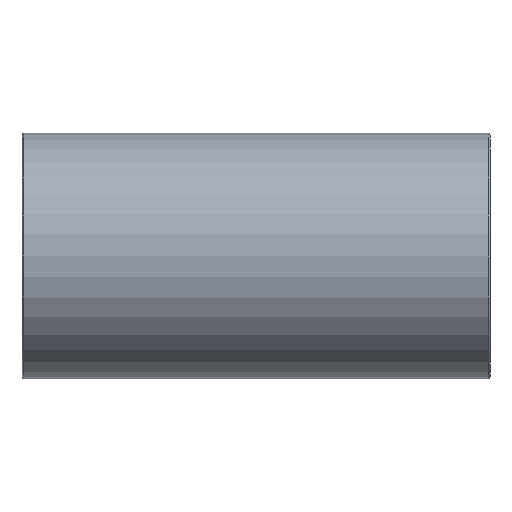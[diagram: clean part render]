
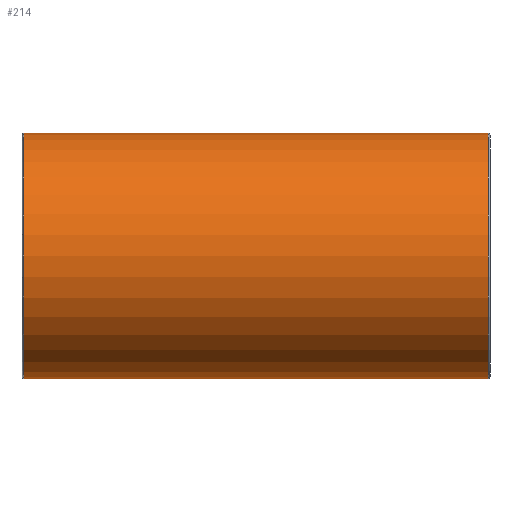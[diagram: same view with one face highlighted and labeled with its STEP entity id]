
A CAD part, front view. The second image highlights one B-rep face of the part: STEP entity #214.
In plain terms, the highlighted cylindrical face has radius 31 mm (diameter 62 mm), a full revolution.
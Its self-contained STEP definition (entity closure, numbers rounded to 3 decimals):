
#27=B_SPLINE_CURVE_WITH_KNOTS('',3,(#355,#356,#357,#358,#359,#360,#361,
#362,#363,#364,#365,#366,#367,#368,#369,#370,#371,#372,#373,#374,#375,#376,
#377,#378,#379,#380,#381,#382,#383,#384,#385,#386,#387,#388,#389,#390,#391,
#392,#393,#394,#395,#396,#397,#398,#399,#400,#401,#402,#403,#404,#405,#406,
#407,#408,#409,#410,#411,#412,#413,#414,#415,#416,#417,#418,#419,#420),
 .UNSPECIFIED.,.T.,.F.,(4,2,2,2,2,2,2,2,2,2,2,2,2,2,2,2,2,2,2,2,2,2,2,2,
2,2,2,2,2,2,2,2,4),(0.,0.36,0.721,1.081,
1.442,1.8,2.158,2.516,2.875,
3.233,3.591,3.949,4.307,4.668,
5.028,5.389,5.749,6.109,6.47,
6.83,7.191,7.549,7.907,8.265,
8.624,8.982,9.34,9.698,10.056,
10.417,10.777,11.138,11.498),
 .UNSPECIFIED.);
#29=FACE_BOUND('',#70,.T.);
#30=FACE_BOUND('',#71,.T.);
#50=FACE_OUTER_BOUND('',#69,.T.);
#69=EDGE_LOOP('',(#167));
#70=EDGE_LOOP('',(#168));
#71=EDGE_LOOP('',(#169));
#109=CIRCLE('',#236,31.);
#110=CIRCLE('',#237,31.);
#127=VERTEX_POINT('',#350);
#128=VERTEX_POINT('',#352);
#129=VERTEX_POINT('',#354);
#147=EDGE_CURVE('',#127,#127,#109,.T.);
#148=EDGE_CURVE('',#128,#128,#110,.T.);
#149=EDGE_CURVE('',#129,#129,#27,.T.);
#167=ORIENTED_EDGE('',*,*,#147,.F.);
#168=ORIENTED_EDGE('',*,*,#148,.F.);
#169=ORIENTED_EDGE('',*,*,#149,.F.);
#207=CYLINDRICAL_SURFACE('',#235,31.);
#214=ADVANCED_FACE('',(#50,#29,#30),#207,.T.);
#235=AXIS2_PLACEMENT_3D('',#349,#274,#275);
#236=AXIS2_PLACEMENT_3D('',#351,#276,#277);
#237=AXIS2_PLACEMENT_3D('',#353,#278,#279);
#274=DIRECTION('center_axis',(1.,0.,0.));
#275=DIRECTION('ref_axis',(0.,1.,0.));
#276=DIRECTION('center_axis',(-1.,0.,0.));
#277=DIRECTION('ref_axis',(0.,-1.,0.));
#278=DIRECTION('center_axis',(1.,0.,0.));
#279=DIRECTION('ref_axis',(0.,-1.,0.));
#349=CARTESIAN_POINT('Origin',(0.,0.,
0.));
#350=CARTESIAN_POINT('',(-58.5,31.,0.));
#351=CARTESIAN_POINT('Origin',(-58.5,0.,0.));
#352=CARTESIAN_POINT('',(58.5,31.,0.));
#353=CARTESIAN_POINT('Origin',(58.5,0.,0.));
#354=CARTESIAN_POINT('',(0.,24.875,18.5));
#355=CARTESIAN_POINT('Ctrl Pts',(0.,24.875,
18.5));
#356=CARTESIAN_POINT('Ctrl Pts',(1.201,24.875,18.5));
#357=CARTESIAN_POINT('Ctrl Pts',(2.429,24.964,18.381));
#358=CARTESIAN_POINT('Ctrl Pts',(4.845,25.314,17.897));
#359=CARTESIAN_POINT('Ctrl Pts',(6.034,25.573,17.531));
#360=CARTESIAN_POINT('Ctrl Pts',(8.298,26.2,16.58));
#361=CARTESIAN_POINT('Ctrl Pts',(9.376,26.567,15.993));
#362=CARTESIAN_POINT('Ctrl Pts',(11.364,27.332,14.648));
#363=CARTESIAN_POINT('Ctrl Pts',(12.274,27.729,13.888));
#364=CARTESIAN_POINT('Ctrl Pts',(13.883,28.478,12.28));
#365=CARTESIAN_POINT('Ctrl Pts',(14.642,28.858,11.371));
#366=CARTESIAN_POINT('Ctrl Pts',(15.989,29.565,9.383));
#367=CARTESIAN_POINT('Ctrl Pts',(16.578,29.89,8.302));
#368=CARTESIAN_POINT('Ctrl Pts',(17.533,30.43,6.03));
#369=CARTESIAN_POINT('Ctrl Pts',(17.899,30.644,4.837));
#370=CARTESIAN_POINT('Ctrl Pts',(18.383,30.929,2.419));
#371=CARTESIAN_POINT('Ctrl Pts',(18.5,31.,1.194));
#372=CARTESIAN_POINT('Ctrl Pts',(18.5,31.,-1.194));
#373=CARTESIAN_POINT('Ctrl Pts',(18.383,30.929,-2.419));
#374=CARTESIAN_POINT('Ctrl Pts',(17.899,30.644,-4.837));
#375=CARTESIAN_POINT('Ctrl Pts',(17.533,30.43,-6.03));
#376=CARTESIAN_POINT('Ctrl Pts',(16.578,29.89,-8.302));
#377=CARTESIAN_POINT('Ctrl Pts',(15.989,29.565,-9.383));
#378=CARTESIAN_POINT('Ctrl Pts',(14.642,28.858,-11.371));
#379=CARTESIAN_POINT('Ctrl Pts',(13.883,28.478,-12.28));
#380=CARTESIAN_POINT('Ctrl Pts',(12.274,27.729,-13.888));
#381=CARTESIAN_POINT('Ctrl Pts',(11.364,27.332,-14.648));
#382=CARTESIAN_POINT('Ctrl Pts',(9.376,26.567,-15.993));
#383=CARTESIAN_POINT('Ctrl Pts',(8.298,26.2,-16.58));
#384=CARTESIAN_POINT('Ctrl Pts',(6.034,25.573,-17.531));
#385=CARTESIAN_POINT('Ctrl Pts',(4.845,25.314,-17.897));
#386=CARTESIAN_POINT('Ctrl Pts',(2.429,24.964,-18.381));
#387=CARTESIAN_POINT('Ctrl Pts',(1.201,24.875,-18.5));
#388=CARTESIAN_POINT('Ctrl Pts',(-1.201,24.875,-18.5));
#389=CARTESIAN_POINT('Ctrl Pts',(-2.429,24.964,-18.381));
#390=CARTESIAN_POINT('Ctrl Pts',(-4.845,25.314,-17.897));
#391=CARTESIAN_POINT('Ctrl Pts',(-6.034,25.573,-17.531));
#392=CARTESIAN_POINT('Ctrl Pts',(-8.298,26.2,-16.58));
#393=CARTESIAN_POINT('Ctrl Pts',(-9.376,26.567,-15.993));
#394=CARTESIAN_POINT('Ctrl Pts',(-11.364,27.332,-14.648));
#395=CARTESIAN_POINT('Ctrl Pts',(-12.274,27.729,-13.888));
#396=CARTESIAN_POINT('Ctrl Pts',(-13.883,28.478,-12.28));
#397=CARTESIAN_POINT('Ctrl Pts',(-14.642,28.858,-11.371));
#398=CARTESIAN_POINT('Ctrl Pts',(-15.989,29.565,-9.383));
#399=CARTESIAN_POINT('Ctrl Pts',(-16.578,29.89,-8.302));
#400=CARTESIAN_POINT('Ctrl Pts',(-17.533,30.43,-6.03));
#401=CARTESIAN_POINT('Ctrl Pts',(-17.899,30.644,-4.837));
#402=CARTESIAN_POINT('Ctrl Pts',(-18.383,30.929,-2.419));
#403=CARTESIAN_POINT('Ctrl Pts',(-18.5,31.,-1.194));
#404=CARTESIAN_POINT('Ctrl Pts',(-18.5,31.,1.194));
#405=CARTESIAN_POINT('Ctrl Pts',(-18.383,30.929,2.419));
#406=CARTESIAN_POINT('Ctrl Pts',(-17.899,30.644,4.837));
#407=CARTESIAN_POINT('Ctrl Pts',(-17.533,30.43,6.03));
#408=CARTESIAN_POINT('Ctrl Pts',(-16.578,29.89,8.302));
#409=CARTESIAN_POINT('Ctrl Pts',(-15.989,29.565,9.383));
#410=CARTESIAN_POINT('Ctrl Pts',(-14.642,28.858,11.371));
#411=CARTESIAN_POINT('Ctrl Pts',(-13.883,28.478,12.28));
#412=CARTESIAN_POINT('Ctrl Pts',(-12.274,27.729,13.888));
#413=CARTESIAN_POINT('Ctrl Pts',(-11.364,27.332,14.648));
#414=CARTESIAN_POINT('Ctrl Pts',(-9.376,26.567,15.993));
#415=CARTESIAN_POINT('Ctrl Pts',(-8.298,26.2,16.58));
#416=CARTESIAN_POINT('Ctrl Pts',(-6.034,25.573,17.531));
#417=CARTESIAN_POINT('Ctrl Pts',(-4.845,25.314,17.897));
#418=CARTESIAN_POINT('Ctrl Pts',(-2.429,24.964,18.381));
#419=CARTESIAN_POINT('Ctrl Pts',(-1.201,24.875,18.5));
#420=CARTESIAN_POINT('Ctrl Pts',(0.,24.875,
18.5));
